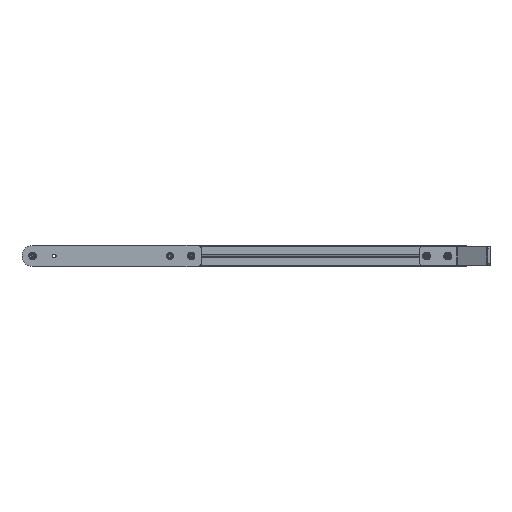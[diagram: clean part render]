
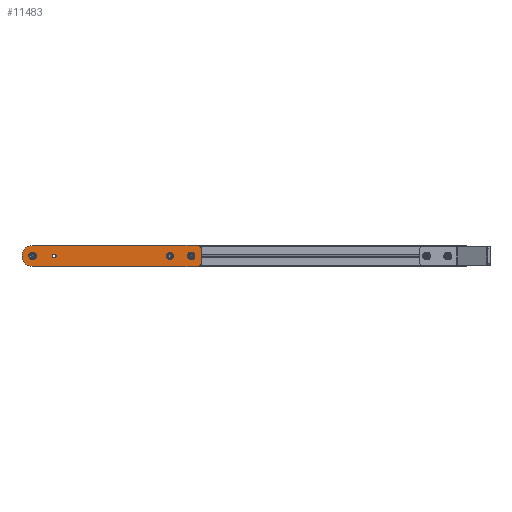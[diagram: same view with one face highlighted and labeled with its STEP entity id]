
A CAD part, left-side view. The second image highlights one B-rep face of the part: STEP entity #11483.
In plain terms, the highlighted planar face has unit normal (-1, 0, 0) as drawn and (0, 0, 1) by its records, which use the part's own axes.
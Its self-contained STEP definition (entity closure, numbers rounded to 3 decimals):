
#47 = CARTESIAN_POINT ( 'NONE',  ( 0., -292.5, 8. ) ) ;
#114 = EDGE_CURVE ( 'NONE', #9493, #9493, #5792, .T. ) ;
#446 = DIRECTION ( 'NONE',  ( 1., 0., 0. ) ) ;
#490 = VECTOR ( 'NONE', #9151, 1000. ) ;
#790 = LINE ( 'NONE', #3578, #490 ) ;
#976 = FACE_OUTER_BOUND ( 'NONE', #7058, .T. ) ;
#1313 = CARTESIAN_POINT ( 'NONE',  ( 0., -46., 8. ) ) ;
#1362 = CARTESIAN_POINT ( 'NONE',  ( 22.5, 0., 8. ) ) ;
#1382 = DIRECTION ( 'NONE',  ( 0., 0., 1. ) ) ;
#1987 = EDGE_LOOP ( 'NONE', ( #9524 ) ) ;
#1995 = VERTEX_POINT ( 'NONE', #1362 ) ;
#2115 = ORIENTED_EDGE ( 'NONE', *, *, #7199, .T. ) ;
#2149 = CARTESIAN_POINT ( 'NONE',  ( -12.5, -350., 8. ) ) ;
#2202 = DIRECTION ( 'NONE',  ( 1., 0., 0. ) ) ;
#2267 = EDGE_CURVE ( 'NONE', #11225, #8084, #11134, .T. ) ;
#2322 = DIRECTION ( 'NONE',  ( 0., 0., 1. ) ) ;
#2827 = ORIENTED_EDGE ( 'NONE', *, *, #5050, .F. ) ;
#2948 = CARTESIAN_POINT ( 'NONE',  ( 4.25, 0., 8. ) ) ;
#2980 = DIRECTION ( 'NONE',  ( -1., 0., 0. ) ) ;
#3164 = ORIENTED_EDGE ( 'NONE', *, *, #9330, .T. ) ;
#3211 = CIRCLE ( 'NONE', #3577, 10. ) ;
#3377 = VERTEX_POINT ( 'NONE', #10420 ) ;
#3440 = CARTESIAN_POINT ( 'NONE',  ( 22.5, 0., 8. ) ) ;
#3577 = AXIS2_PLACEMENT_3D ( 'NONE', #2149, #5941, #2202 ) ;
#3578 = CARTESIAN_POINT ( 'NONE',  ( -22.5, 0., 8. ) ) ;
#3716 = CARTESIAN_POINT ( 'NONE',  ( 4.25, -46., 8. ) ) ;
#3752 = PLANE ( 'NONE',  #6059 ) ;
#3796 = CARTESIAN_POINT ( 'NONE',  ( -22.5, -350., 8. ) ) ;
#3821 = CARTESIAN_POINT ( 'NONE',  ( 12.5, -350., 8. ) ) ;
#4241 = AXIS2_PLACEMENT_3D ( 'NONE', #5695, #7526, #9399 ) ;
#4250 = CARTESIAN_POINT ( 'NONE',  ( 22.5, -350., 8. ) ) ;
#4445 = ORIENTED_EDGE ( 'NONE', *, *, #114, .F. ) ;
#4560 = VECTOR ( 'NONE', #7128, 1000. ) ;
#4787 = FACE_BOUND ( 'NONE', #6385, .T. ) ;
#4845 = FACE_BOUND ( 'NONE', #8677, .T. ) ;
#4949 = CARTESIAN_POINT ( 'NONE',  ( 4.25, -337.5, 8. ) ) ;
#4972 = CARTESIAN_POINT ( 'NONE',  ( 12.5, -350., 8. ) ) ;
#5050 = EDGE_CURVE ( 'NONE', #10388, #10388, #8924, .T. ) ;
#5590 = VERTEX_POINT ( 'NONE', #2948 ) ;
#5626 = FACE_BOUND ( 'NONE', #11124, .T. ) ;
#5695 = CARTESIAN_POINT ( 'NONE',  ( 0., -337.5, 8. ) ) ;
#5765 = CARTESIAN_POINT ( 'NONE',  ( 4.25, -292.5, 8. ) ) ;
#5792 = CIRCLE ( 'NONE', #4241, 4.25 ) ;
#5807 = ORIENTED_EDGE ( 'NONE', *, *, #10095, .T. ) ;
#5902 = AXIS2_PLACEMENT_3D ( 'NONE', #4972, #2322, #10547 ) ;
#5941 = DIRECTION ( 'NONE',  ( 0., 0., 1. ) ) ;
#6016 = VERTEX_POINT ( 'NONE', #7687 ) ;
#6059 = AXIS2_PLACEMENT_3D ( 'NONE', #3821, #8289, #2980 ) ;
#6143 = CARTESIAN_POINT ( 'NONE',  ( 0., 0., 8. ) ) ;
#6315 = ORIENTED_EDGE ( 'NONE', *, *, #2267, .T. ) ;
#6385 = EDGE_LOOP ( 'NONE', ( #2827 ) ) ;
#6520 = CARTESIAN_POINT ( 'NONE',  ( -12.5, -360., 8. ) ) ;
#6654 = AXIS2_PLACEMENT_3D ( 'NONE', #11571, #11625, #7809 ) ;
#6664 = AXIS2_PLACEMENT_3D ( 'NONE', #6143, #1382, #8816 ) ;
#6722 = FACE_BOUND ( 'NONE', #1987, .T. ) ;
#6889 = EDGE_CURVE ( 'NONE', #6016, #7256, #790, .T. ) ;
#7058 = EDGE_LOOP ( 'NONE', ( #6315, #2115, #3164, #9118, #5807, #11623 ) ) ;
#7128 = DIRECTION ( 'NONE',  ( 0., 1., 0. ) ) ;
#7199 = EDGE_CURVE ( 'NONE', #8084, #1995, #11739, .T. ) ;
#7256 = VERTEX_POINT ( 'NONE', #3796 ) ;
#7283 = EDGE_CURVE ( 'NONE', #3377, #11225, #8339, .T. ) ;
#7519 = DIRECTION ( 'NONE',  ( 0., 0., 1. ) ) ;
#7526 = DIRECTION ( 'NONE',  ( 0., 0., 1. ) ) ;
#7687 = CARTESIAN_POINT ( 'NONE',  ( -22.5, 0., 8. ) ) ;
#7809 = DIRECTION ( 'NONE',  ( 1., 0., 0. ) ) ;
#8084 = VERTEX_POINT ( 'NONE', #4250 ) ;
#8191 = CIRCLE ( 'NONE', #8387, 4.25 ) ;
#8289 = DIRECTION ( 'NONE',  ( 0., 0., -1. ) ) ;
#8339 = LINE ( 'NONE', #6520, #9789 ) ;
#8387 = AXIS2_PLACEMENT_3D ( 'NONE', #47, #7519, #10183 ) ;
#8677 = EDGE_LOOP ( 'NONE', ( #4445 ) ) ;
#8749 = AXIS2_PLACEMENT_3D ( 'NONE', #1313, #10396, #446 ) ;
#8816 = DIRECTION ( 'NONE',  ( -1., 0., 0. ) ) ;
#8837 = EDGE_CURVE ( 'NONE', #5590, #5590, #11312, .T. ) ;
#8924 = CIRCLE ( 'NONE', #8749, 4.25 ) ;
#9118 = ORIENTED_EDGE ( 'NONE', *, *, #6889, .T. ) ;
#9151 = DIRECTION ( 'NONE',  ( 0., -1., 0. ) ) ;
#9330 = EDGE_CURVE ( 'NONE', #1995, #6016, #10350, .T. ) ;
#9399 = DIRECTION ( 'NONE',  ( 1., 0., 0. ) ) ;
#9493 = VERTEX_POINT ( 'NONE', #4949 ) ;
#9523 = VERTEX_POINT ( 'NONE', #5765 ) ;
#9524 = ORIENTED_EDGE ( 'NONE', *, *, #8837, .F. ) ;
#9789 = VECTOR ( 'NONE', #10341, 1000. ) ;
#10095 = EDGE_CURVE ( 'NONE', #7256, #3377, #3211, .T. ) ;
#10183 = DIRECTION ( 'NONE',  ( 1., 0., 0. ) ) ;
#10341 = DIRECTION ( 'NONE',  ( 1., 0., 0. ) ) ;
#10350 = CIRCLE ( 'NONE', #6664, 22.5 ) ;
#10388 = VERTEX_POINT ( 'NONE', #3716 ) ;
#10396 = DIRECTION ( 'NONE',  ( 0., 0., 1. ) ) ;
#10420 = CARTESIAN_POINT ( 'NONE',  ( -12.5, -360., 8. ) ) ;
#10547 = DIRECTION ( 'NONE',  ( -1., 0., 0. ) ) ;
#10980 = ORIENTED_EDGE ( 'NONE', *, *, #11512, .F. ) ;
#11124 = EDGE_LOOP ( 'NONE', ( #10980 ) ) ;
#11134 = CIRCLE ( 'NONE', #5902, 10. ) ;
#11225 = VERTEX_POINT ( 'NONE', #11413 ) ;
#11312 = CIRCLE ( 'NONE', #6654, 4.25 ) ;
#11413 = CARTESIAN_POINT ( 'NONE',  ( 12.5, -360., 8. ) ) ;
#11483 = ADVANCED_FACE ( 'NONE', ( #4845, #5626, #4787, #6722, #976 ), #3752, .F. ) ;
#11512 = EDGE_CURVE ( 'NONE', #9523, #9523, #8191, .T. ) ;
#11571 = CARTESIAN_POINT ( 'NONE',  ( 0., 0., 8. ) ) ;
#11623 = ORIENTED_EDGE ( 'NONE', *, *, #7283, .T. ) ;
#11625 = DIRECTION ( 'NONE',  ( 0., 0., 1. ) ) ;
#11739 = LINE ( 'NONE', #3440, #4560 ) ;
